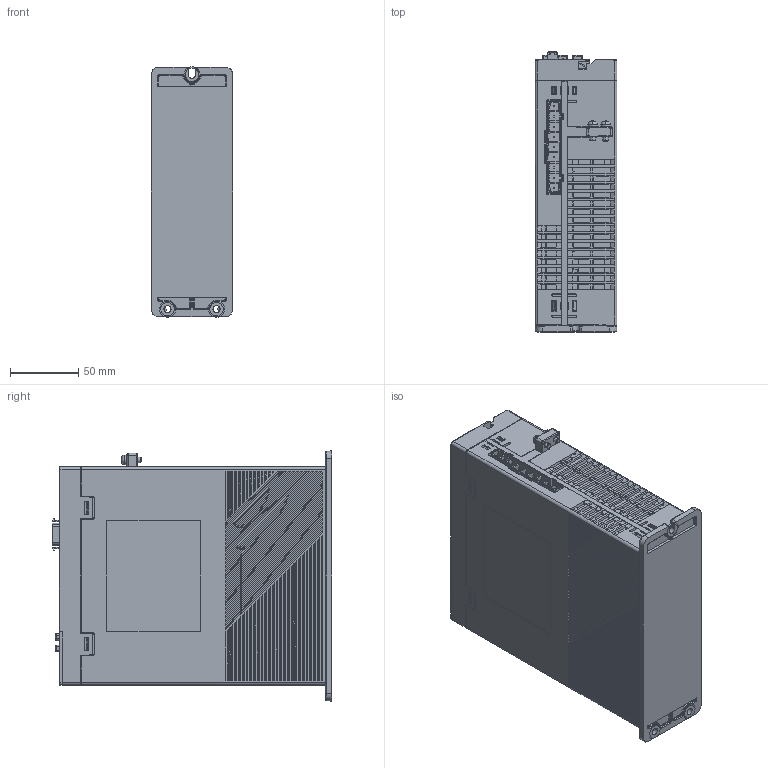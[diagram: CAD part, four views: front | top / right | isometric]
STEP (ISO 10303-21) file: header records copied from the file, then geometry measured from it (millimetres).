
FILE_DESCRIPTION((''),'2;1');
FILE_NAME('BD3-C-240513_SW0001','2025-02-19T11:35:25',('qiaolun'),(''),'CREO PARAMETRIC BY PTC INC, 2021063','CREO PARAMETRIC BY PTC INC, 2021063','');
FILE_SCHEMA(('CONFIG_CONTROL_DESIGN'));
Products named in the file (1): BD3-C-240513_SW0001
Bounding box: 60 x 205.24 x 183.89 mm (x, y, z)
Surface area: 206987.5 mm2 (no closed solid volume)
Topology: 0 solids, 0 shells, 7668 faces, 43812 edges, 43679 vertices
Faces by surface type: plane 5762, cylinder 1340, cone 195, bspline 166, torus 93, sphere 58, extrusion 50, revolution 4
Entity records: 563316 total; most frequent: CARTESIAN_POINT 143041, DIRECTION 75983, TRIMMED_CURVE 58551, VECTOR 56119, LINE 56069, DEFINITIONAL_REPRESENTATION 43598, PCURVE 43598, COMPOSITE_CURVE_SEGMENT 43598
